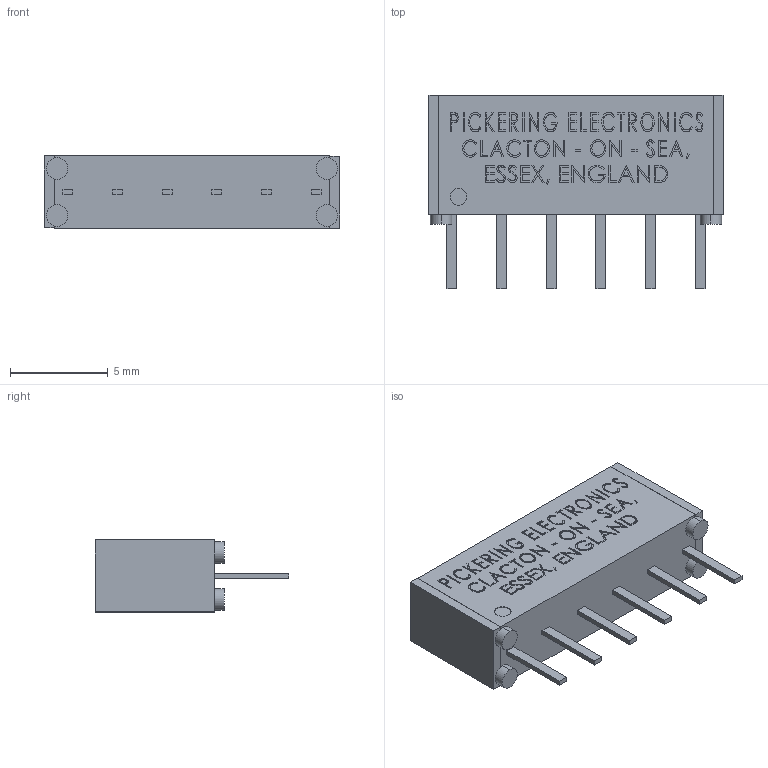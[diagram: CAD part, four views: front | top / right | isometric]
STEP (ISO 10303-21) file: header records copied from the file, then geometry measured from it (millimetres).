
FILE_DESCRIPTION (( 'STEP AP203' ), '1' );
FILE_NAME ('109RFxx-1-A-x-xx.STEP', '2010-06-29T10:56:25', ( ' ' ), ( '' ), 'SwSTEP 2.0', 'SolidWorks 2009', '' );
FILE_SCHEMA (( 'CONFIG_CONTROL_DESIGN' ));
Length unit declared in the file: millimetre
Products named in the file (1): 109RFxx-1-A-x-xx
Bounding box: 15.1 x 9.9 x 3.7 mm (x, y, z)
Volume: 341.6 mm3; surface area: 492.7 mm2
Topology: 7 solids, 8 shells, 1070 faces, 2817 edges, 1878 vertices
Faces by surface type: plane 772, bspline 288, cylinder 10
Entity records: 48234 total; most frequent: CARTESIAN_POINT 23630, ORIENTED_EDGE 5634, DIRECTION 3827, EDGE_CURVE 2817, VECTOR 2221, LINE 2221, VERTEX_POINT 1878, EDGE_LOOP 1186
